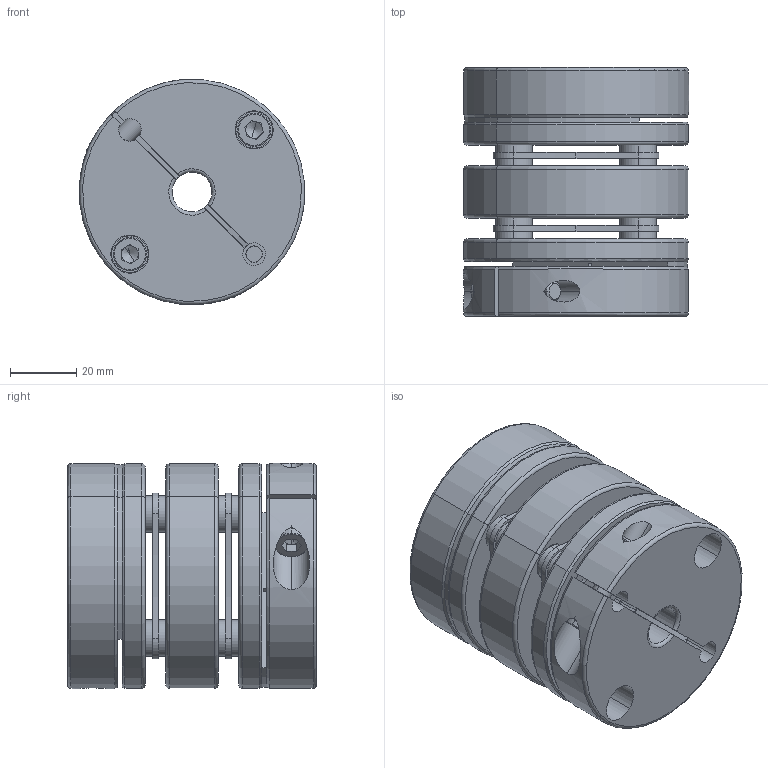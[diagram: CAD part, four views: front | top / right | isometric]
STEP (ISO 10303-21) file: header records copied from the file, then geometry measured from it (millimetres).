
FILE_DESCRIPTION (( 'STEP AP203' ), '1' );
FILE_NAME ('DXC-68X75-12-12.STEP', '2024-03-16T07:02:56', ( '' ), ( '' ), 'SwSTEP 2.0', 'SolidWorks 2020', '' );
FILE_SCHEMA (( 'CONFIG_CONTROL_DESIGN' ));
Length unit declared in the file: millimetre
Products named in the file (6): DXC-68X75-12-12; 68臚え郪; 68臚え倰笢潔璃; 68臚え薊粣ん傷裔; socket head cap screw_iso_ISO 4762 M6 x 12 - 12C; socket head cap screw_iso_ISO 4762 M6 x 25 - 25C
Assembly tree (15 placements, depth 2):
  DXC-68X75-12-12
    68臚え郪  x2
    68臚え薊粣ん傷裔  x2
    socket head cap screw_iso_ISO 4762 M6 x 12 - 12C  x8
    socket head cap screw_iso_ISO 4762 M6 x 25 - 25C  x2
    68臚え倰笢潔璃
Bounding box: 68 x 75 x 68 mm (x, y, z)
Volume: 191009.8 mm3; surface area: 66168.2 mm2
Topology: 15 solids, 15 shells, 528 faces, 1218 edges, 742 vertices
Faces by surface type: plane 214, cylinder 202, torus 64, cone 48
Entity records: 6994 total; most frequent: CARTESIAN_POINT 1340, DIRECTION 1104, ORIENTED_EDGE 914, EDGE_CURVE 457, AXIS2_PLACEMENT_3D 456, VERTEX_POINT 288, EDGE_LOOP 247, CIRCLE 244
